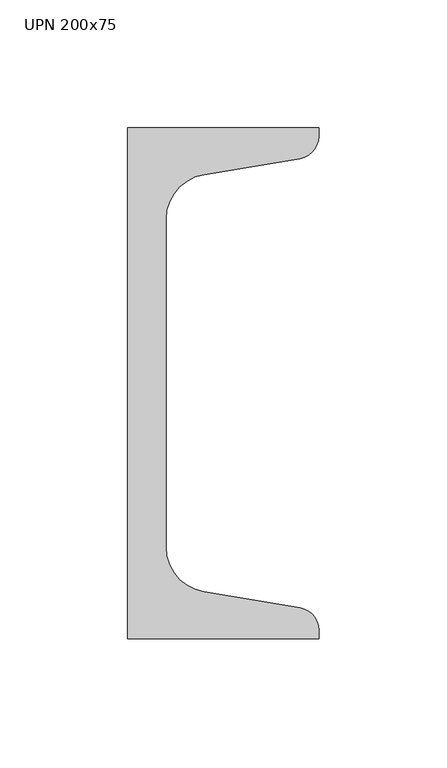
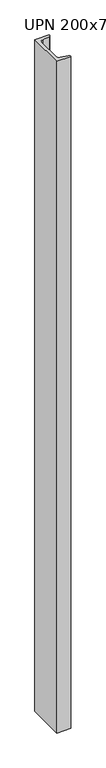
"""IFC4 building model written with IfcOpenShell, lengths in millimetres: column geometry, M_MC Shapes-Column : UPN 200x75."""

from ifc_helpers import new_model, si_unit, point, frame, frame_2d, origin, place, context, project, spatial, polyline, circle_curve, trimmed, segment, composite_curve, outline, extrude, source, transform, mapped, element, save


def upn_200x75_fcc0ec56(model_context):
    return source(origin(), model_context, "Body", "SweptSolid", [
        extrude(outline(composite_curve([segment(polyline([(-26.4, -100.0), (-26.4, 100.0), (48.6, 100.0), (48.6, 96.7227759)]), True, "CONTINUOUS"), segment(trimmed(circle_curve(frame_2d((39.7, 96.7227759)), 8.9), [point((48.6, 96.7227759))], [point((41.1631538, 87.9438705))], False, "CARTESIAN"), True, "CONTINUOUS"), segment(polyline([(41.1631538, 87.9438705), (3.4736923, 81.662281)]), True, "CONTINUOUS"), segment(trimmed(circle_curve(frame_2d((6.4, 64.1044701)), 17.8), [point((3.4736923, 81.662281))], [point((-11.4, 64.1044701))], True, "CARTESIAN"), True, "CONTINUOUS"), segment(polyline([(-11.4, 64.1044701), (-11.4, -64.1044701)]), True, "CONTINUOUS"), segment(trimmed(circle_curve(frame_2d((6.4, -64.1044701)), 17.8), [point((-11.4, -64.1044701))], [point((3.4736923, -81.662281))], True, "CARTESIAN"), True, "CONTINUOUS"), segment(polyline([(3.4736923, -81.662281), (41.1631538, -87.9438705)]), True, "CONTINUOUS"), segment(trimmed(circle_curve(frame_2d((39.7, -96.7227759)), 8.9), [point((41.1631538, -87.9438705))], [point((48.6, -96.7227759))], False, "CARTESIAN"), True, "CONTINUOUS"), segment(polyline([(48.6, -96.7227759), (48.6, -100.0), (-26.4, -100.0)]), True, "CONTINUOUS")], self_intersect=False)), frame((0.0, 0.0, 11160.0), z_axis=(0.0, 0.0, 1.0), x_axis=(1.0, 0.0, 0.0)), (0.0, 0.0, 1.0), 3750.0),
    ])


if __name__ == "__main__":
    model = new_model("IFC4")
    model_context = context("Model", 3, world=origin())
    ifc_project = project(units=[si_unit("LENGTHUNIT", "METRE", prefix="MILLI")], contexts=[model_context])
    site = spatial("IfcSite", under=ifc_project)
    building = spatial("IfcBuilding", under=site)
    placement = place(None, origin())
    upn_200x75_shape = upn_200x75_fcc0ec56(model_context)
    element("IfcColumn", 1, ObjectType="M_MC Shapes-Column : UPN 200x75", at=placement, inside=building, context=model_context, shape_type="MappedRepresentation", body=[
        mapped(upn_200x75_shape, transform((0.0, 0.0, 0.0), x_axis=(1.0, 0.0, 0.0), y_axis=(0.0, 1.0, 0.0), z_axis=(0.0, 0.0, 1.0))),
    ])
    save(model, "model.ifc")
